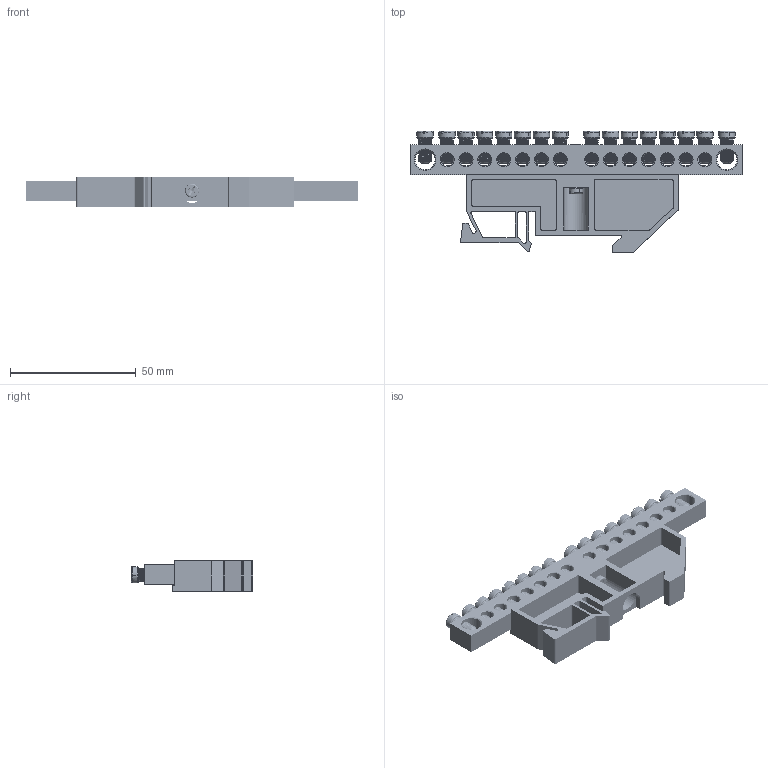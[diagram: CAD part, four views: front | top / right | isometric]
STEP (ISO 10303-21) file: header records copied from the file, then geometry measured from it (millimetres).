
FILE_DESCRIPTION (( 'STEP AP214' ), '1' );
FILE_NAME ('Øèíà íóëåâàÿ ñ DIN èçîëÿòîðîì 8õ12 16.STEP', '2020-02-06T11:37:23', ( '' ), ( '' ), 'SwSTEP 2.0', 'SolidWorks 2018', '' );
FILE_SCHEMA (( 'AUTOMOTIVE_DESIGN' ));
Length unit declared in the file: millimetre
Products named in the file (6): Øèíà íóëåâàÿ ñ êðåïåæíûì îòâåðñòèåì ïî öåíòðó 8õ12 16-1_1; Âèíò ì5; Øèíà 8õ12 16 1; Âèíò ì4; DIN èçîëÿòîð; Øèíà íóëåâàÿ ñ DIN èçîëÿòîðîì 8õ12 16
Assembly tree (20 placements, depth 3):
  Øèíà íóëåâàÿ ñ DIN èçîëÿòîðîì 8õ12 16
    DIN èçîëÿòîð
    Âèíò ì4
    Øèíà íóëåâàÿ ñ êðåïåæíûì îòâåðñòèåì ïî öåíòðó 8õ12 16-1_1
      Øèíà 8õ12 16 1
      Âèíò ì5  x16
Bounding box: 132 x 48.3 x 12 mm (x, y, z)
Volume: 24678.7 mm3; surface area: 23220 mm2
Topology: 19 solids, 19 shells, 1548 faces, 4285 edges, 2750 vertices
Faces by surface type: cylinder 598, plane 535, cone 233, torus 120, bspline 52, sphere 10
Entity records: 18484 total; most frequent: CARTESIAN_POINT 7390, ORIENTED_EDGE 2244, DIRECTION 2159, EDGE_CURVE 1122, AXIS2_PLACEMENT_3D 807, VERTEX_POINT 710, LINE 545, VECTOR 545
